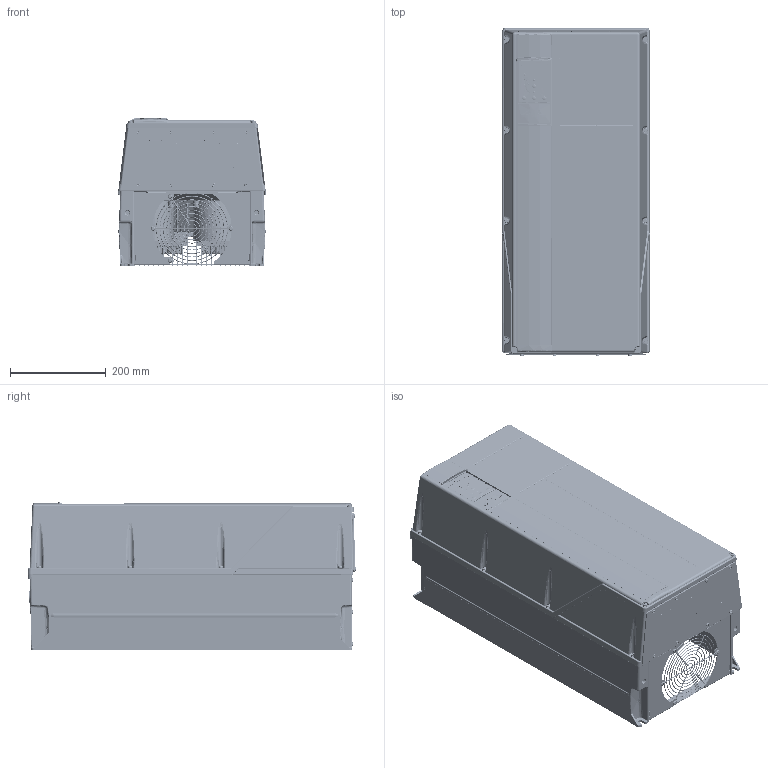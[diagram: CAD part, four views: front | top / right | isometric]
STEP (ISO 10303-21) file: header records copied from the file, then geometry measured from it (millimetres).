
FILE_DESCRIPTION((''),'2;1');
FILE_NAME('DANFOSS-FC101-I7-IP54','2011-09-23T',('madhu-selva'),(''),'PRO/ENGINEER BY PARAMETRIC TECHNOLOGY CORPORATION, 2009360','PRO/ENGINEER BY PARAMETRIC TECHNOLOGY CORPORATION, 2009360','');
FILE_SCHEMA(('CONFIG_CONTROL_DESIGN', 'GEOMETRIC_VALIDATION_PROPERTIES_MIM'));
Length unit declared in the file: millimetre
Products named in the file (1): DANFOSS-FC101-I7-IP54
Bounding box: 307.5 x 685.07 x 310.58 mm (x, y, z)
Volume: 44651267.5 mm3; surface area: 3155746.6 mm2
Topology: 1 solids, 35 shells, 6575 faces, 16626 edges, 10097 vertices
Faces by surface type: cylinder 2287, plane 1930, bspline 1407, torus 520, cone 363, sphere 68
Entity records: 318694 total; most frequent: CARTESIAN_POINT 168134, ORIENTED_EDGE 32942, DIRECTION 27302, EDGE_CURVE 16471, VERTEX_POINT 10095, AXIS2_PLACEMENT_3D 10057, VECTOR 7188, LINE 7188
